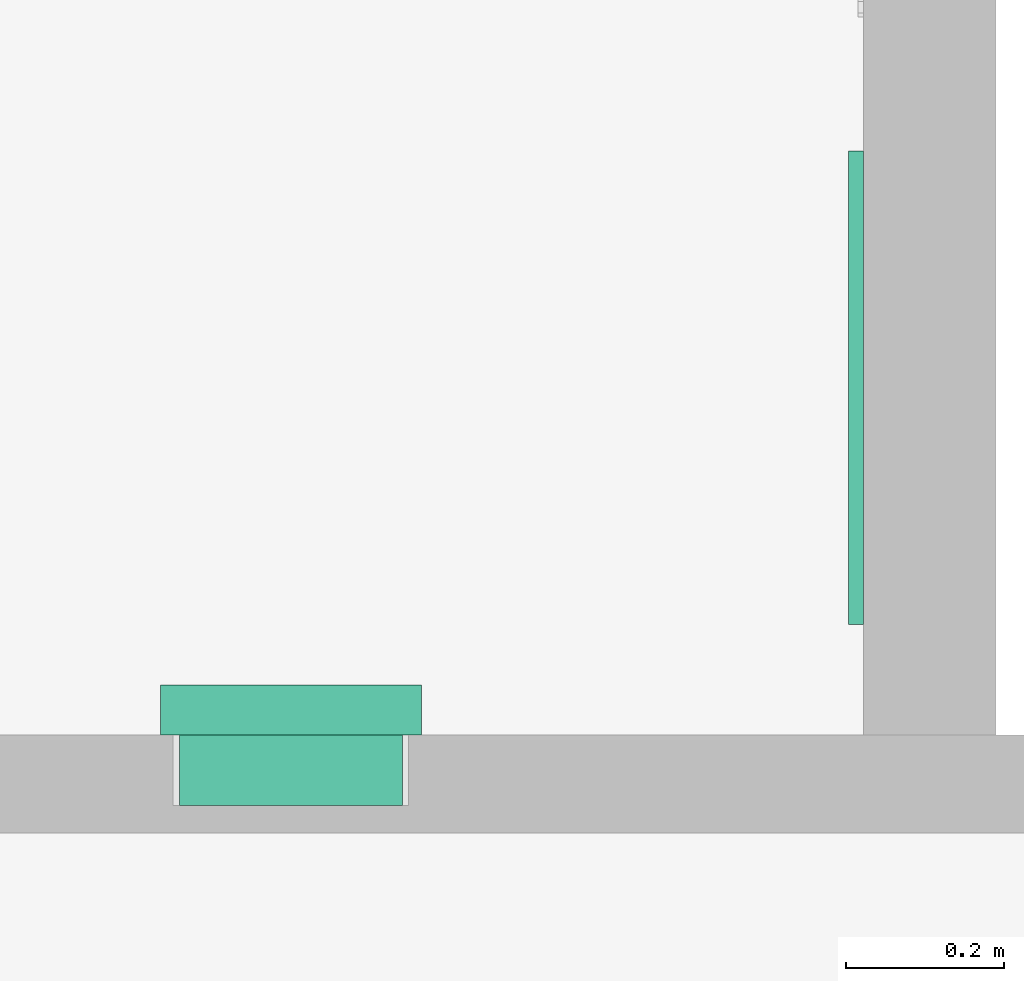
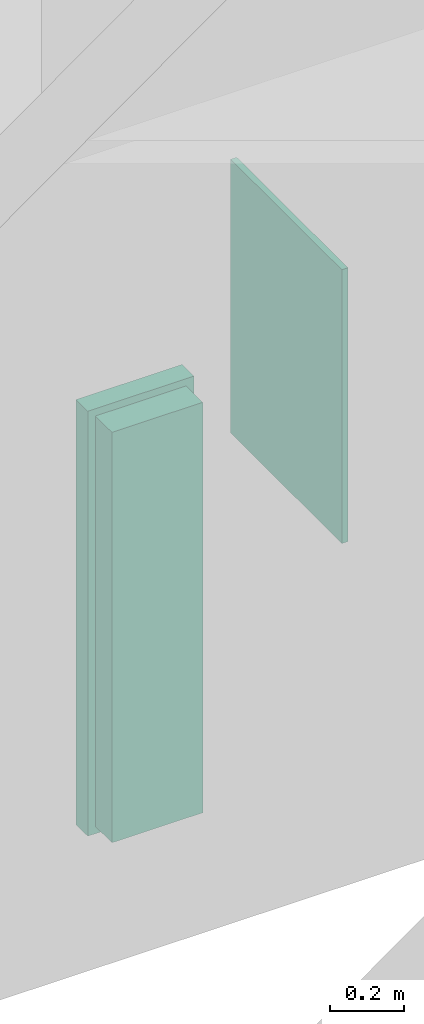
# One storey, part 59 of 87: 2 flow terminals.
"""IFC2X3 building model written with IfcOpenShell, lengths in metres."""

from ifc_helpers import new_model, entity, si_unit, converted_unit, frame, origin, origin_2d_with_axis, place, context, project, spatial, rectangle, extrude, face_set, surface_model, source, transform, mapped, type_object, type_shapes, element, save


model = new_model("IFC2X3")

# Units and contexts
model_context = context("Model", 3, precision=1e-09, world=origin())
plan_context = context("Plan", 3, precision=1e-09, world=origin())
ifc_project = project(units=[si_unit("LENGTHUNIT", "METRE"), si_unit("AREAUNIT", "SQUARE_METRE"), si_unit("VOLUMEUNIT", "CUBIC_METRE"), converted_unit("PLANEANGLEUNIT", "DEGREE", entity("IfcRatioMeasure", 0.01745329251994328), si_unit("PLANEANGLEUNIT", "RADIAN"), dimensions=[0, 0, 0, 0, 0, 0, 0]), si_unit("TIMEUNIT", "SECOND")], contexts=[model_context, plan_context])

# Site, building, storey, space
site_placement = place(None, origin())
site = spatial("IfcSite", under=ifc_project, at=site_placement, Name="Default", CompositionType="ELEMENT")
building_placement = place(site_placement, origin())
building = spatial("IfcBuilding", under=site, at=building_placement, CompositionType="ELEMENT")
storey_placement = place(building_placement, origin())
storey = spatial("IfcBuildingStorey", under=building, at=storey_placement, Name="First Floor", CompositionType="ELEMENT", Elevation=-3.531500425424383e-13)
space_placement = place(storey_placement, origin())
space = spatial("IfcSpace", under=storey, at=space_placement, Name="1B05", CompositionType="ELEMENT", InteriorOrExteriorSpace="INTERNAL")

# Flow terminals
sanitary_terminal_type_1 = type_object("IfcSanitaryTerminalType", Name="Mirror 600mm x 900mm", PredefinedType="NOTDEFINED")
shared_shape_1 = source(origin(), model_context, "Body", "SweptSolid", [
    extrude(rectangle(XDim=0.01905, YDim=0.5999999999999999, at=origin_2d_with_axis()), frame((0.02447030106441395, 0.093525, 1.0), z_axis=(0.0, 0.0, 1.0), x_axis=(0.0, -1.0, 0.0)), (0.0, 0.0, 1.0), 0.8999999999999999),
])
type_shapes(sanitary_terminal_type_1, [shared_shape_1])
flow_terminal_1_placement = place(space_placement, frame((-5.015975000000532, 21.98552969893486, -0.08500000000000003), z_axis=(0.0, 0.0, 1.0), x_axis=(0.0, 1.0, 0.0)))
element("IfcFlowTerminal", 1, at=flow_terminal_1_placement, inside=space, type_object=sanitary_terminal_type_1, Name="M_Mirror:Mirror 600mm x 900mm:Mirror 600mm x 900mm", ObjectType="Mirror 600mm x 900mm", context=model_context, shape_type="MappedRepresentation", body=[
    mapped(shared_shape_1, transform((0.0, 0.0, 0.0), scale=1.0)),
])
sanitary_terminal_type_2 = type_object("IfcSanitaryTerminalType", Name="Semi-Recessed", PredefinedType="NOTDEFINED")
shared_shape_2 = source(origin(), model_context, "Body", "SurfaceModel", [
    surface_model("IfcFaceBasedSurfaceModel", [(0.3047999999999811, 1.371600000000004, 0.006350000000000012), (0.02539999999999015, 1.371600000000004, 0.006350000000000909), (0.02539999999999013, 0.02540000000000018, 0.006350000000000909), (0.3047999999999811, 0.02540000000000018, 0.006350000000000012), (0.3047999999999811, 1.371600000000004, 0.0), (0.02539999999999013, 1.371600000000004, 0.0), (0.02539999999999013, 0.02540000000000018, 0.0), (0.3047999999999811, 0.02540000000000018, 0.0), (0.3047999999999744, 0.8683625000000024, 0.0314087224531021), (0.304799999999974, 0.8683625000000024, 0.0), (0.304799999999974, 1.371600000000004, 0.0), (0.3047999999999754, 1.371600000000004, 0.1396999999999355), (0.3047999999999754, 0.9274310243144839, 0.139699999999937), (0.3047999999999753, 0.9028355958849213, 0.1191121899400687), (0.304799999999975, 0.8840898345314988, 0.09308548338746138), (0.3047999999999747, 0.8723562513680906, 0.06323391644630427), (0.02539999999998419, 0.8683625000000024, 0.03140872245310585), (0.02539999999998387, 0.8683625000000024, 0.0), (0.02539999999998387, 1.371600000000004, 0.0), (0.02539999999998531, 1.371600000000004, 0.1396999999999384), (0.02539999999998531, 0.9274310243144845, 0.1396999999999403), (0.02539999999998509, 0.9028355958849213, 0.1191121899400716), (0.02539999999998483, 0.8840898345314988, 0.09308548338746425), (0.02539999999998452, 0.8723562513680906, 0.06323391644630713), (0.1650999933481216, 0.8971245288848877, 0.1125374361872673), (0.244423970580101, 0.8850007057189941, 0.0947267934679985), (0.3048000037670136, 0.8934627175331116, 0.1060988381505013), (0.225727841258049, 0.8897196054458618, 0.1024402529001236), (0.1240624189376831, 0.8936511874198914, 0.1080563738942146), (0.1443802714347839, 0.89626145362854, 0.1114614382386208), (0.02539999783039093, 0.8934627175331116, 0.1060988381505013), (0.2975995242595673, 0.8728225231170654, 0.06500939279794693), (0.2961554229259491, 0.8724397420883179, 0.06352298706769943), (0.08576729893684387, 0.8849983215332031, 0.09472260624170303), (0.05923719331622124, 0.8781034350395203, 0.0805450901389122), (0.06810294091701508, 0.8800443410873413, 0.08500713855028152), (0.02539999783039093, 0.8811564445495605, 0.08562259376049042), (0.03954862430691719, 0.8766331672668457, 0.07681932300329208), (0.04958875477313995, 0.8769928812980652, 0.07776296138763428), (0.02539999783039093, 0.8782230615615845, 0.07815969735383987), (0.03264534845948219, 0.875198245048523, 0.07281118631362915), (0.02539999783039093, 0.8767563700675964, 0.0744282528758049), (0.02539999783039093, 0.87602299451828, 0.07256253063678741), (0.2946777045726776, 0.8762261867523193, 0.07572414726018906), (0.3048000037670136, 0.8767563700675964, 0.0744282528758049), (0.3048000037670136, 0.8774896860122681, 0.07629397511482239), (0.2906513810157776, 0.8717893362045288, 0.0609215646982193), (0.3048000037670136, 0.871357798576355, 0.05527761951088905), (0.3048000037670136, 0.8718570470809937, 0.05925576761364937), (0.02539999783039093, 0.874556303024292, 0.06883108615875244), (0.03170676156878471, 0.8735430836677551, 0.0675705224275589), (0.03171554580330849, 0.8739543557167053, 0.06892137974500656), (0.104461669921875, 0.889717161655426, 0.1024366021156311), (0.02539999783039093, 0.8752896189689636, 0.07069680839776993), (0.03172433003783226, 0.8743656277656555, 0.07027223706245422), (0.03218483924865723, 0.8747819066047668, 0.07154171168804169), (0.185808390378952, 0.8962624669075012, 0.1114626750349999), (0.3048000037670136, 0.8703593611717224, 0.04732131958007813), (0.2280749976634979, 0.8709259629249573, 0.05697767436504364), (0.2061262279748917, 0.8936530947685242, 0.1080589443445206), (0.3048000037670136, 0.8752896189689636, 0.07069680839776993), (0.297547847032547, 0.8752022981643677, 0.07282306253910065), (0.2980738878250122, 0.8745774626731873, 0.0708826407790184), (0.2985999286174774, 0.8739525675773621, 0.06894221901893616), (0.3048000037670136, 0.874556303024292, 0.06883108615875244), (0.2709419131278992, 0.8781068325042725, 0.08055329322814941), (0.3048000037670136, 0.8811564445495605, 0.08562259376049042), (0.2620970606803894, 0.8800443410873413, 0.08500713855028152), (0.2805894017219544, 0.8769944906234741, 0.07776710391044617), (0.3048000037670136, 0.8782230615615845, 0.07815969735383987), (0.03435983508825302, 0.8722586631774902, 0.06284872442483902), (0.02539999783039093, 0.872106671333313, 0.06124484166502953), (0.0367727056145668, 0.8719081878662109, 0.06142202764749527), (0.2906513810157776, 0.8766331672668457, 0.07681932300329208), (0.02539999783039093, 0.8718570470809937, 0.05925576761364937), (0.3048000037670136, 0.8738229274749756, 0.06696536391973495), (0.2980997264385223, 0.8733875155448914, 0.06697580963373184), (0.3048000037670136, 0.872106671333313, 0.06124484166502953), (0.2947112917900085, 0.8720570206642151, 0.06203658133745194), (0.02539999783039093, 0.8738229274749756, 0.06696536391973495), (0.3048000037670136, 0.873089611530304, 0.06509964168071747), (0.02539999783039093, 0.8774896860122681, 0.07629397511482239), (0.03438528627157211, 0.8759323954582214, 0.07491400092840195), (0.03677724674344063, 0.8764464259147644, 0.07632055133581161), (0.03261014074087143, 0.8728178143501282, 0.0649920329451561), (0.02539999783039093, 0.8703593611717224, 0.04732131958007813), (0.1650999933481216, 0.8683624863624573, 0.03140872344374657), (0.03954862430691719, 0.8717893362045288, 0.0609215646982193), (0.1021250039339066, 0.8709259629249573, 0.05697767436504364), (0.02539999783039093, 0.871357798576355, 0.05527761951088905), (0.02539999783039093, 0.873089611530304, 0.06509964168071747), (0.2961127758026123, 0.8757142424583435, 0.07427360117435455), (0.3048000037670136, 0.87602299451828, 0.07256253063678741), (0.1650999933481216, 0.8701865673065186, 0.05300865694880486), (0.03954862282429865, 0.9617593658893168, 0.06092156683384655), (0.1650999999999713, 0.9617593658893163, 0.05300865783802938), (0.2906513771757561, 0.9617593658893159, 0.06092156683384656), (0.2927086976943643, 0.9617593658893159, 0.06119241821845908), (0.2946258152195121, 0.9617593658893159, 0.06198651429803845), (0.2962720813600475, 0.9617593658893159, 0.06324973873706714), (0.2975353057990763, 0.9617593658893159, 0.06489600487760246), (0.2983294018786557, 0.9617593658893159, 0.06681312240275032), (0.2986002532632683, 0.9617593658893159, 0.06887044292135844), (0.2983294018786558, 0.9617593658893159, 0.07092776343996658), (0.2975353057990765, 0.9617593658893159, 0.0728448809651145), (0.2962720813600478, 0.9617593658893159, 0.07449114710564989), (0.2946258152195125, 0.9617593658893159, 0.07575437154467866), (0.2927086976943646, 0.9617593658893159, 0.07654846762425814), (0.2906513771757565, 0.9617593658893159, 0.07681931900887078), (0.2806776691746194, 0.9617593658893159, 0.07775040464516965), (0.2710486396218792, 0.9617593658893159, 0.0805114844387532), (0.2620970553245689, 0.9617593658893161, 0.0850071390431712), (0.2316919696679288, 0.9617593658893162, 0.1002429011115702), (0.1989754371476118, 0.9617593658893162, 0.1095287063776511), (0.1651000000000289, 0.9617593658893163, 0.1125374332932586), (0.1312245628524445, 0.9617593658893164, 0.109528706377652), (0.09850803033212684, 0.9617593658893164, 0.1002429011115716), (0.06810294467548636, 0.9617593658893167, 0.08500713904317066), (0.05915136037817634, 0.9617593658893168, 0.08051148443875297), (0.04952233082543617, 0.9617593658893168, 0.07775040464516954), (0.03954862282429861, 0.9617593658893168, 0.07681931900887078), (0.03749130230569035, 0.9617593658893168, 0.0765484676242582), (0.03557418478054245, 0.9617593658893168, 0.07575437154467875), (0.03392791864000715, 0.9617593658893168, 0.07449114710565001), (0.03266469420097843, 0.9617593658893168, 0.07284488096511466), (0.03187059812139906, 0.9617593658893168, 0.07092776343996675), (0.03159974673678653, 0.9617593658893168, 0.06887044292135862), (0.03187059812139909, 0.9617593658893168, 0.06681312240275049), (0.03266469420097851, 0.9617593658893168, 0.0648960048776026), (0.03392791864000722, 0.9617593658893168, 0.06324973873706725), (0.03557418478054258, 0.9617593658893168, 0.06198651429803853), (0.03749130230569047, 0.9617593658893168, 0.06119241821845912), (0.3302000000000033, 1.397000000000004, 0.1523999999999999), (0.0, 1.397000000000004, 0.152400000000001), (0.0, 0.0, 0.152400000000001), (0.3302000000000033, 0.0, 0.1523999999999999), (0.03175000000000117, 0.7016793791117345, 0.1524000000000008), (0.03175000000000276, 0.8960819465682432, 0.1524000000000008), (0.03192255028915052, 0.8975521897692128, 0.1524000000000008), (0.03243082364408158, 0.8989425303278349, 0.1524000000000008), (0.03324719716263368, 0.9001774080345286, 0.1524000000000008), (0.03432730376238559, 0.9011897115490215, 0.1524000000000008), (0.03561244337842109, 0.9019244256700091, 0.1524000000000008), (0.03703277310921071, 0.9023416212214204, 0.1524000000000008), (0.1222300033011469, 0.9119737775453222, 0.1524000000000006), (0.2079699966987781, 0.911973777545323, 0.1524000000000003), (0.2931672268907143, 0.902341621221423, 0.1524), (0.2945875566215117, 0.9019244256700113, 0.1524), (0.2958726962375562, 0.9011897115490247, 0.1524), (0.2969528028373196, 0.9001774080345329, 0.1524), (0.297769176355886, 0.8989425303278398, 0.1524), (0.2982774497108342, 0.8975521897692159, 0.1524), (0.2984500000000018, 0.8960819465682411, 0.1524), (0.2984500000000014, 0.7016793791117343, 0.1524), (0.2982774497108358, 0.7002091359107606, 0.1524), (0.2977691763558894, 0.6988187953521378, 0.1524), (0.2969528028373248, 0.697583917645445, 0.1524), (0.2958726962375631, 0.6965716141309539, 0.1524), (0.29458755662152, 0.6958369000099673, 0.1524), (0.2931672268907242, 0.6954197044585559, 0.1524), (0.2079699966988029, 0.6857875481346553, 0.1524000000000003), (0.1222300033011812, 0.6857875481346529, 0.1524000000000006), (0.03703277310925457, 0.6954197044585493, 0.1524000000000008), (0.03561244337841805, 0.6958369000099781, 0.1524000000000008), (0.0343273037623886, 0.6965716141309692, 0.1524000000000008), (0.03324719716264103, 0.6975839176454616, 0.1524000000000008), (0.03243082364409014, 0.698818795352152, 0.1524000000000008), (0.03192255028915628, 0.7002091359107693, 0.1524000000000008), (0.3063874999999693, 1.373187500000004, 0.0), (0.02381249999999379, 1.373187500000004, 0.0), (0.02381249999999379, 0.02381250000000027, 0.0), (0.3063874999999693, 0.02381250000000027, 0.0), (0.3047999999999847, 1.371600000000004, 0.0), (0.3047999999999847, 0.02540000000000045, 0.0), (0.02539999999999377, 0.02540000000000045, 0.0), (0.02539999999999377, 1.371600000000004, 0.0), (0.304799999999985, 1.371600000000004, 0.08889999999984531), (0.3047999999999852, 1.371600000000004, 0.1396999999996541), (0.3047999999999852, 0.02540000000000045, 0.1396999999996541), (0.304799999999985, 0.02540000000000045, 0.08889999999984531), (0.02539999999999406, 0.02540000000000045, 0.08889999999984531), (0.02539999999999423, 0.02540000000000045, 0.139699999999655), (0.02539999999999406, 1.371600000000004, 0.08889999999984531), (0.02539999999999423, 1.371600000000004, 0.139699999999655), (0.02381249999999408, 1.373187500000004, 0.08889999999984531), (0.3063874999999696, 1.373187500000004, 0.08889999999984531), (0.02381249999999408, 0.02381250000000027, 0.08889999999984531), (0.3063874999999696, 0.02381250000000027, 0.08889999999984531), (0.3302000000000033, 1.397000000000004, 0.08889999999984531), (0.0, 1.397000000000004, 0.08889999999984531), (0.0, 0.0, 0.08889999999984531), (0.3302000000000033, 0.0, 0.08889999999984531), (0.3302000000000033, 1.397000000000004, 0.1396999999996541), (0.0, 1.397000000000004, 0.1396999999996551), (0.0, 0.0, 0.1396999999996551), (0.3302000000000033, 0.0, 0.1396999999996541), (0.0317500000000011, 0.7016793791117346, 0.139699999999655), (0.03175000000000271, 0.8960819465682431, 0.139699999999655), (0.03192255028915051, 0.8975521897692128, 0.139699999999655), (0.03243082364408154, 0.8989425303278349, 0.139699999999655), (0.03324719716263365, 0.9001774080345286, 0.139699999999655), (0.03432730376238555, 0.9011897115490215, 0.139699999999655), (0.03561244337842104, 0.9019244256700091, 0.139699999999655), (0.03703277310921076, 0.9023416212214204, 0.139699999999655), (0.1222300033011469, 0.9119737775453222, 0.1396999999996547), (0.207969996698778, 0.911973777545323, 0.1396999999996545), (0.2931672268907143, 0.902341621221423, 0.1396999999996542), (0.2945875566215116, 0.9019244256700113, 0.1396999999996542), (0.2958726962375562, 0.9011897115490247, 0.1396999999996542), (0.2969528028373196, 0.9001774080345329, 0.1396999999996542), (0.2977691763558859, 0.8989425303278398, 0.1396999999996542), (0.2982774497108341, 0.8975521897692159, 0.1396999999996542), (0.2984500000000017, 0.8960819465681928, 0.1396999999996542), (0.2984500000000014, 0.7016793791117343, 0.1396999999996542), (0.2982774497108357, 0.7002091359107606, 0.1396999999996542), (0.2977691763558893, 0.6988187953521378, 0.1396999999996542), (0.2969528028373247, 0.697583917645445, 0.1396999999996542), (0.295872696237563, 0.6965716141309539, 0.1396999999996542), (0.29458755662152, 0.6958369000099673, 0.1396999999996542), (0.2931672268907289, 0.6954197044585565, 0.1396999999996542), (0.2079699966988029, 0.6857875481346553, 0.1396999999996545), (0.1222300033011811, 0.6857875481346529, 0.1396999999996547), (0.0370327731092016, 0.6954197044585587, 0.139699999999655), (0.03561244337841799, 0.6958369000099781, 0.139699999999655), (0.03432730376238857, 0.6965716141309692, 0.139699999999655), (0.03324719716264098, 0.6975839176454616, 0.139699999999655), (0.03243082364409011, 0.698818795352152, 0.139699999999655), (0.03192255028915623, 0.7002091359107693, 0.139699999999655), (0.02698749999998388, 0.6774923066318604, 0.1206361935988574), (0.02698749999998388, 0.6858000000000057, 0.1206361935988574), (0.02698749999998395, 0.6858000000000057, 0.1397000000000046), (0.02698749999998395, 0.0253999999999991, 0.1397000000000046), (0.02698749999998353, 0.0253999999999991, 0.007937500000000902), (0.02698749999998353, 0.7076898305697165, 0.007937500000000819), (0.3032124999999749, 0.6774923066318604, 0.1206361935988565), (0.3032124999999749, 0.6858000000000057, 0.1206361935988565), (0.3032124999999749, 0.6858000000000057, 0.1397000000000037), (0.3032124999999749, 0.0253999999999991, 0.1397000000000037), (0.3032124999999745, 0.0253999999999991, 0.007937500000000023), (0.3032124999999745, 0.7076898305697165, 0.007937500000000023)], [face_set([[[0, 1, 2, 3]], [[4, 5, 6, 7]], [[1, 0, 4, 5]], [[2, 6, 5, 1]], [[3, 7, 6, 2]], [[0, 3, 7, 4]]]), face_set([[[8, 9, 10, 11, 12, 13, 14, 15]], [[16, 17, 18, 19, 20, 21, 22, 23]], [[9, 8, 16, 17]], [[10, 18, 17, 9]], [[11, 19, 18, 10]], [[12, 11, 19, 20]], [[24, 20, 21]], [[25, 26, 27]], [[28, 29, 21]], [[28, 21, 30]], [[15, 31, 32]], [[22, 33, 30]], [[24, 21, 29]], [[34, 35, 36]], [[37, 38, 39]], [[40, 41, 42]], [[39, 38, 34]], [[22, 35, 33]], [[39, 34, 36]], [[43, 44, 45]], [[46, 47, 48]], [[49, 50, 51]], [[33, 52, 30]], [[53, 54, 55]], [[24, 56, 13]], [[57, 47, 58]], [[24, 13, 12]], [[13, 56, 59]], [[59, 27, 26]], [[60, 61, 62]], [[62, 63, 64]], [[24, 12, 20]], [[55, 42, 53]], [[65, 66, 67]], [[25, 67, 14]], [[25, 14, 26]], [[65, 68, 69]], [[66, 65, 69]], [[70, 71, 72]], [[69, 68, 73]], [[72, 71, 74]], [[26, 13, 59]], [[54, 53, 49]], [[64, 60, 62]], [[75, 63, 76]], [[46, 77, 78]], [[79, 50, 49]], [[80, 76, 31]], [[39, 81, 37]], [[41, 82, 81]], [[49, 51, 54]], [[81, 82, 83]], [[40, 82, 41]], [[70, 84, 23]], [[84, 50, 79]], [[85, 16, 86]], [[28, 30, 52]], [[70, 23, 71]], [[87, 72, 74]], [[85, 88, 89]], [[87, 89, 88]], [[74, 89, 87]], [[84, 90, 23]], [[58, 47, 46]], [[35, 22, 36]], [[63, 75, 64]], [[91, 61, 92]], [[45, 73, 43]], [[80, 75, 76]], [[61, 60, 92]], [[15, 32, 78]], [[45, 69, 73]], [[92, 44, 91]], [[66, 14, 67]], [[84, 79, 90]], [[85, 93, 88]], [[86, 57, 93]], [[31, 15, 80]], [[77, 15, 78]], [[42, 55, 40]], [[58, 93, 57]], [[77, 46, 48]], [[8, 57, 86]], [[37, 81, 83]], [[44, 43, 91]], [[85, 86, 93]], [[94, 95, 96, 97, 98, 99, 100, 101, 102, 103, 104, 105, 106, 107, 108, 109, 110, 111, 112, 113, 114, 115, 116, 117, 118, 119, 120, 121, 122, 123, 124, 125, 126, 127, 128, 129, 130, 131]], [[95, 94, 87, 88, 93]], [[96, 95, 93, 58, 46]], [[46, 96, 97]], [[78, 98, 99]], [[97, 98, 78]], [[99, 100, 31]], [[46, 97, 78]], [[63, 31, 101]], [[31, 78, 99]], [[63, 101, 102]], [[101, 31, 100]], [[61, 104, 105]], [[43, 106, 107]], [[105, 106, 43]], [[73, 107, 108]], [[63, 103, 61]], [[103, 63, 102]], [[61, 103, 104]], [[61, 105, 43]], [[107, 73, 43]], [[108, 68, 73]], [[68, 108, 109]], [[109, 65, 68]], [[110, 67, 65]], [[67, 110, 111]], [[109, 110, 65]], [[111, 112, 25]], [[25, 67, 111]], [[27, 25, 112]], [[112, 59, 27]], [[113, 114, 56]], [[56, 59, 113]], [[24, 56, 114]], [[113, 59, 112]], [[114, 115, 29]], [[29, 24, 114]], [[28, 29, 115]], [[115, 116, 28]], [[116, 117, 33]], [[33, 52, 116]], [[35, 33, 117]], [[116, 52, 28]], [[118, 34, 35]], [[35, 117, 118]], [[118, 119, 34]], [[120, 37, 38]], [[38, 119, 120]], [[34, 119, 38]], [[37, 120, 121]], [[82, 122, 123]], [[121, 122, 83]], [[123, 124, 40]], [[37, 121, 83]], [[83, 122, 82]], [[40, 125, 54]], [[40, 82, 123]], [[54, 125, 126]], [[40, 124, 125]], [[84, 127, 128]], [[129, 84, 128]], [[72, 130, 131]], [[129, 130, 70]], [[87, 131, 94]], [[127, 50, 126]], [[127, 84, 50]], [[126, 50, 54]], [[70, 84, 129]], [[130, 72, 70]], [[131, 87, 72]]]), face_set([[[132, 133, 134, 135], [136, 137, 138, 139, 140, 141, 142, 143, 144, 145, 146, 147, 148, 149, 150, 151, 152, 153, 154, 155, 156, 157, 158, 159, 160, 161, 162, 163, 164, 165, 166, 167]], [[168, 169, 170, 171], [172, 173, 174, 175]], [[172, 176, 177, 178, 179, 173]], [[173, 174, 180, 181, 178, 179]], [[174, 175, 182, 183, 181, 180]], [[175, 182, 183, 177, 176, 172]], [[168, 169, 184, 185]], [[169, 184, 186, 170]], [[170, 186, 187, 171]], [[171, 168, 185, 187]], [[188, 189, 190, 191], [185, 187, 186, 184]], [[133, 132, 192, 188, 189, 193]], [[134, 133, 193, 189, 190, 194]], [[135, 134, 194, 190, 191, 195]], [[132, 135, 195, 191, 188, 192]], [[177, 183, 181, 178], [196, 197, 198, 199, 200, 201, 202, 203, 204, 205, 206, 207, 208, 209, 210, 211, 212, 213, 214, 215, 216, 217, 218, 219, 220, 221, 222, 223, 224, 225, 226, 227]], [[137, 136, 196, 197]], [[198, 197, 137, 138]], [[199, 198, 138, 139]], [[139, 140, 200, 199]], [[202, 201, 141, 142]], [[203, 202, 142, 143]], [[140, 141, 201, 200]], [[203, 143, 144, 204]], [[145, 205, 204, 144]], [[205, 145, 146, 206]], [[207, 206, 146, 147]], [[208, 207, 147, 148]], [[148, 149, 209, 208]], [[212, 211, 151, 152]], [[211, 210, 150, 151]], [[149, 150, 210, 209]], [[153, 213, 212, 152]], [[214, 213, 153, 154]], [[215, 214, 154, 155]], [[155, 156, 216, 215]], [[218, 217, 157, 158]], [[219, 218, 158, 159]], [[156, 157, 217, 216]], [[219, 159, 160, 220]], [[161, 221, 220, 160]], [[221, 161, 162, 222]], [[223, 222, 162, 163]], [[224, 223, 163, 164]], [[164, 165, 225, 224]], [[227, 226, 166, 167]], [[196, 227, 167, 136]], [[165, 166, 226, 225]]]), face_set([[[228, 229, 230, 231, 232, 233]], [[234, 235, 236, 237, 238, 239]], [[233, 228, 234, 239]], [[232, 238, 239, 233]], [[231, 237, 238, 232]], [[230, 231, 237, 236]], [[229, 230, 236, 235]], [[228, 234, 235, 229]]])]),
])
type_shapes(sanitary_terminal_type_2, [shared_shape_2])
flow_terminal_2_placement = place(space_placement, frame((-5.659975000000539, 21.48109999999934, 0.3428999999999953), z_axis=(0.0, 1.0, 0.0), x_axis=(-1.0, 0.0, 0.0)))
element("IfcFlowTerminal", 2, at=flow_terminal_2_placement, inside=space, type_object=sanitary_terminal_type_2, Name="M_Towel Dispensers - receptical:Semi-Recessed:Semi-Recessed", ObjectType="Semi-Recessed", context=model_context, shape_type="MappedRepresentation", body=[
    mapped(shared_shape_2, transform((0.0, 0.0, 0.0), scale=1.0)),
])

save(model, "model.ifc")
